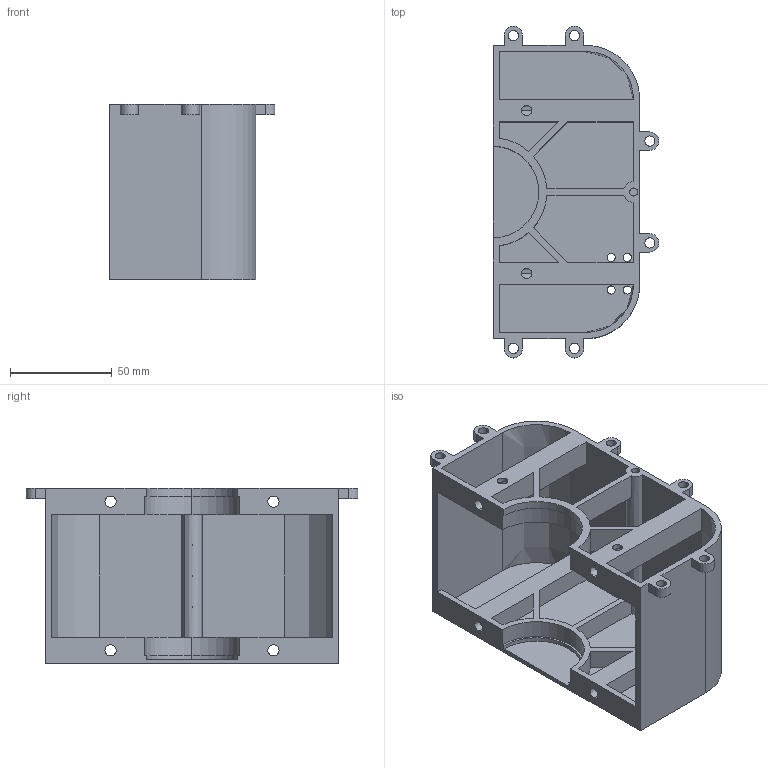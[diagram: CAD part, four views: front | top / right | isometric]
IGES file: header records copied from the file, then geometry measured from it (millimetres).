
Start section: IMSI TurboCAD v14.0
Global section: author: NULL; organization: NULL; date: 20250711.180801; units: millimetre
Bounding box: 81.5 x 163 x 86 mm (x, y, z)
Surface area: 96059.2 mm2 (no closed solid volume)
Topology: 0 solids, 0 shells, 158 faces, 947 edges, 950 vertices
Faces by surface type: revolution 82, extrusion 76
